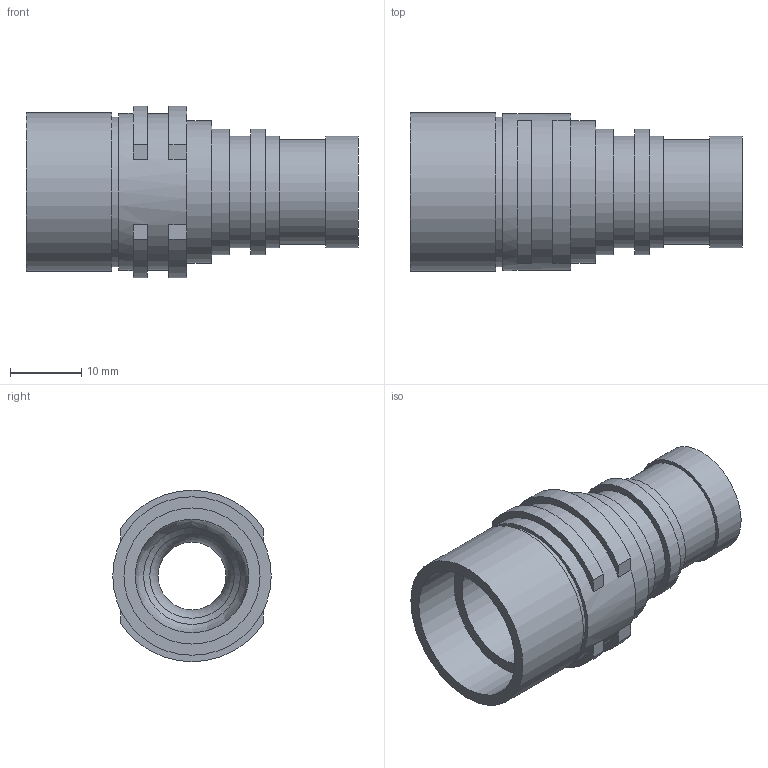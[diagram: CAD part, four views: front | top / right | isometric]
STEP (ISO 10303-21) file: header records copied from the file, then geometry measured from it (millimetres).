
FILE_DESCRIPTION( ( 'Unknown' ), '1' );
FILE_NAME( '//Sv02/01_社内情報/103_技術部/012_図面/図面/電子カタログ-3D/電子カタログ-3D元ファイル(par)/70_3D電子カタログ/02_RU/インチ/70-19.05RU12.7-P.stp', 'Unknown', ( 'Unknown' ), ( 'Unknown' ), 'XStep 1.0', 'Unknown', ' ' );
FILE_SCHEMA( ( 'CONFIG_CONTROL_DESIGN' ) );
Length unit declared in the file: millimetre
Products named in the file (1): 1
Bounding box: 46.5 x 22.2 x 24 mm (x, y, z)
Volume: 6616.2 mm3; surface area: 5778.1 mm2
Topology: 1 solids, 1 shells, 48 faces, 98 edges, 64 vertices
Faces by surface type: plane 27, cylinder 18, bspline 1, cone 1, torus 1
Full cylindrical faces by diameter (mm): 9.5 x1, 12.65 x1, 14.65 x1, 15.6 x2, 15.65 x1, 15.9 x1, 17.6 x2, 19.05 x1, 20 x1, 21 x1, 22 x1, 22.2 x1
Entity records: 1229 total; most frequent: DIRECTION 218, CARTESIAN_POINT 214, ORIENTED_EDGE 154, AXIS2_PLACEMENT_3D 93, EDGE_LOOP 80, EDGE_CURVE 77, FACE_OUTER_BOUND 64, VERTEX_POINT 61
